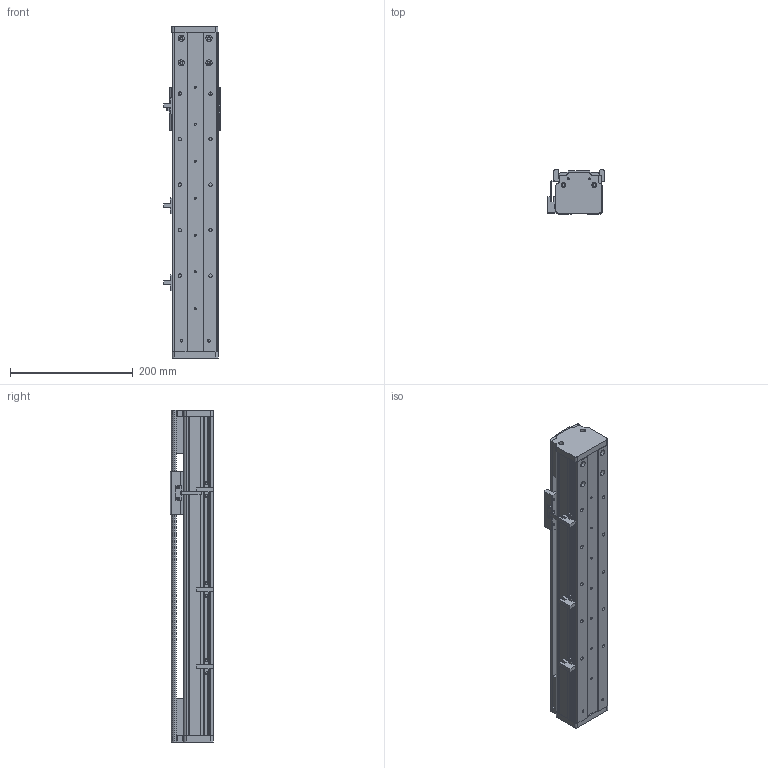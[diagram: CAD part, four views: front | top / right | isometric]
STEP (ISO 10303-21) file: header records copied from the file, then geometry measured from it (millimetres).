
FILE_DESCRIPTION (( 'STEP AP214' ), '1' );
FILE_NAME ('CF75-D-300-FWR.STEP', '2020-01-15T07:15:41', ( '微软用户' ), ( '微软中国' ), 'SwSTEP 2.0', 'SolidWorks 2016', '' );
FILE_SCHEMA (( 'AUTOMOTIVE_DESIGN' ));
Length unit declared in the file: millimetre
Products named in the file (12): 嫖萇羲壽; 75-86-95癹弇羲壽覜茼え; 75侧板（2016.03.24改进） - 副本; 75侧板（2016.03.24改进）; 75裔啣-300; EGR15-300; EGW15CA賑輸; 75賑輸; 植雄耜; CF75郔陔翋雄釱; CF75臏倰第-300; CF75-D-300-FWR
Assembly tree (13 placements, depth 2):
  CF75-D-300-FWR
    CF75臏倰第-300
    CF75郔陔翋雄釱
    植雄耜
    75賑輸
    EGW15CA賑輸
    EGR15-300
    75裔啣-300
    75侧板（2016.03.24改进）
    75侧板（2016.03.24改进） - 副本
    75-86-95癹弇羲壽覜茼え
    嫖萇羲壽  x3
Bounding box: 92.22 x 71.43 x 540 mm (x, y, z)
Volume: 1363875.6 mm3; surface area: 416856.9 mm2
Topology: 13 solids, 13 shells, 779 faces, 2148 edges, 1408 vertices
Faces by surface type: plane 421, cylinder 342, cone 16
Entity records: 24976 total; most frequent: CARTESIAN_POINT 4721, DIRECTION 3997, ORIENTED_EDGE 3976, EDGE_CURVE 1988, AXIS2_PLACEMENT_3D 1404, VERTEX_POINT 1312, LINE 1189, VECTOR 1189
